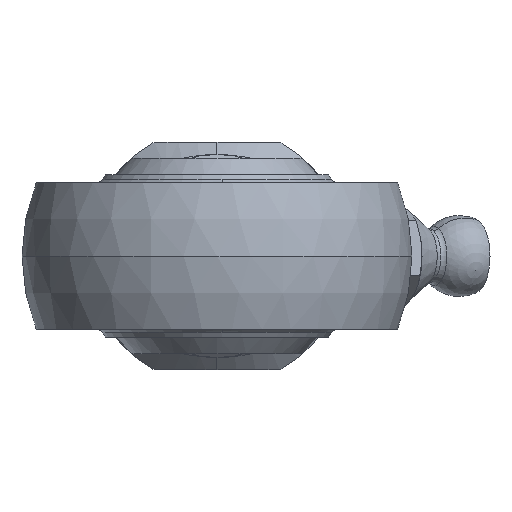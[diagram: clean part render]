
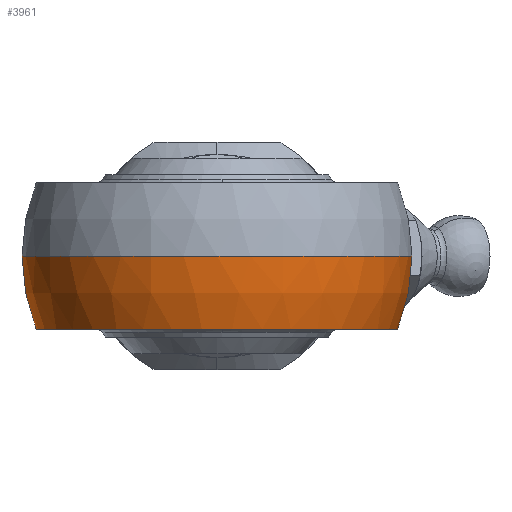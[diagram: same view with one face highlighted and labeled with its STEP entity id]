
A CAD part, left-side view. The second image highlights one B-rep face of the part: STEP entity #3961.
In plain terms, the highlighted spherical face has radius 12 mm.
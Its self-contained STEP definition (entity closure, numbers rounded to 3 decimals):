
#1519 = DIRECTION ( 'NONE',  ( 0., 0., 1. ) ) ;
#1520 = DIRECTION ( 'NONE',  ( -1., 0., 0. ) ) ;
#1521 = AXIS2_PLACEMENT_3D ( 'NONE', #1529, #1520, #1519 ) ;
#1522 = CIRCLE ( 'NONE', #1521, 10.579 ) ;
#1529 = CARTESIAN_POINT ( 'NONE',  ( 5.664, 0., 0. ) ) ;
#1569 = CARTESIAN_POINT ( 'NONE',  ( 5.664, -9.574, -4.5 ) ) ;
#1594 = DIRECTION ( 'NONE',  ( 0., 1., 0. ) ) ;
#1595 = DIRECTION ( 'NONE',  ( 0., 0., -1. ) ) ;
#1596 = CARTESIAN_POINT ( 'NONE',  ( 0., 0., 0. ) ) ;
#1597 = AXIS2_PLACEMENT_3D ( 'NONE', #1596, #1595, #1594 ) ;
#1598 = SPHERICAL_SURFACE ( 'NONE', #1597, 12. ) ;
#1604 = FACE_OUTER_BOUND ( 'NONE', #3949, .T. ) ;
#2001 = CIRCLE ( 'NONE', #2070, 11.124 ) ;
#2067 = DIRECTION ( 'NONE',  ( 1., 0., 0. ) ) ;
#2068 = DIRECTION ( 'NONE',  ( 0., 0., 1. ) ) ;
#2069 = CARTESIAN_POINT ( 'NONE',  ( 0., 0., -4.5 ) ) ;
#2070 = AXIS2_PLACEMENT_3D ( 'NONE', #2069, #2068, #2067 ) ;
#3136 = CARTESIAN_POINT ( 'NONE',  ( -12., 0., 0. ) ) ;
#3137 = CARTESIAN_POINT ( 'NONE',  ( 5.664, 9.574, -4.5 ) ) ;
#3138 = CARTESIAN_POINT ( 'NONE',  ( 5.664, 10.579, 0. ) ) ;
#3139 = DIRECTION ( 'NONE',  ( 0., 1., 0. ) ) ;
#3140 = DIRECTION ( 'NONE',  ( 0., 0., -1. ) ) ;
#3141 = CARTESIAN_POINT ( 'NONE',  ( 0., 0., 0. ) ) ;
#3142 = AXIS2_PLACEMENT_3D ( 'NONE', #3141, #3140, #3139 ) ;
#3143 = CIRCLE ( 'NONE', #3142, 12. ) ;
#3144 = CARTESIAN_POINT ( 'NONE',  ( 5.664, -10.579, 0. ) ) ;
#3145 = DIRECTION ( 'NONE',  ( 0., 0., 1. ) ) ;
#3146 = DIRECTION ( 'NONE',  ( -1., 0., 0. ) ) ;
#3147 = CARTESIAN_POINT ( 'NONE',  ( 5.664, 0., 0. ) ) ;
#3148 = AXIS2_PLACEMENT_3D ( 'NONE', #3147, #3146, #3145 ) ;
#3149 = CIRCLE ( 'NONE', #3148, 10.579 ) ;
#3150 = DIRECTION ( 'NONE',  ( 1., 0., 0. ) ) ;
#3151 = DIRECTION ( 'NONE',  ( 0., 0., 1. ) ) ;
#3152 = CARTESIAN_POINT ( 'NONE',  ( 0., 0., 0. ) ) ;
#3153 = AXIS2_PLACEMENT_3D ( 'NONE', #3152, #3151, #3150 ) ;
#3157 = CIRCLE ( 'NONE', #3153, 12. ) ;
#3947 = EDGE_CURVE ( 'NONE', #3954, #4819, #1522, .T. ) ;
#3949 = EDGE_LOOP ( 'NONE', ( #3952, #4823, #4826, #4828, #4179 ) ) ;
#3952 = ORIENTED_EDGE ( 'NONE', *, *, #3947, .T. ) ;
#3954 = VERTEX_POINT ( 'NONE', #1569 ) ;
#3961 = ADVANCED_FACE ( 'NONE', ( #1604 ), #1598, .T. ) ;
#4178 = EDGE_CURVE ( 'NONE', #4827, #3954, #2001, .T. ) ;
#4179 = ORIENTED_EDGE ( 'NONE', *, *, #4178, .T. ) ;
#4817 = EDGE_CURVE ( 'NONE', #4825, #4829, #3157, .T. ) ;
#4818 = EDGE_CURVE ( 'NONE', #4825, #4827, #3149, .T. ) ;
#4819 = VERTEX_POINT ( 'NONE', #3144 ) ;
#4823 = ORIENTED_EDGE ( 'NONE', *, *, #4824, .T. ) ;
#4824 = EDGE_CURVE ( 'NONE', #4819, #4829, #3143, .T. ) ;
#4825 = VERTEX_POINT ( 'NONE', #3138 ) ;
#4826 = ORIENTED_EDGE ( 'NONE', *, *, #4817, .F. ) ;
#4827 = VERTEX_POINT ( 'NONE', #3137 ) ;
#4828 = ORIENTED_EDGE ( 'NONE', *, *, #4818, .T. ) ;
#4829 = VERTEX_POINT ( 'NONE', #3136 ) ;
